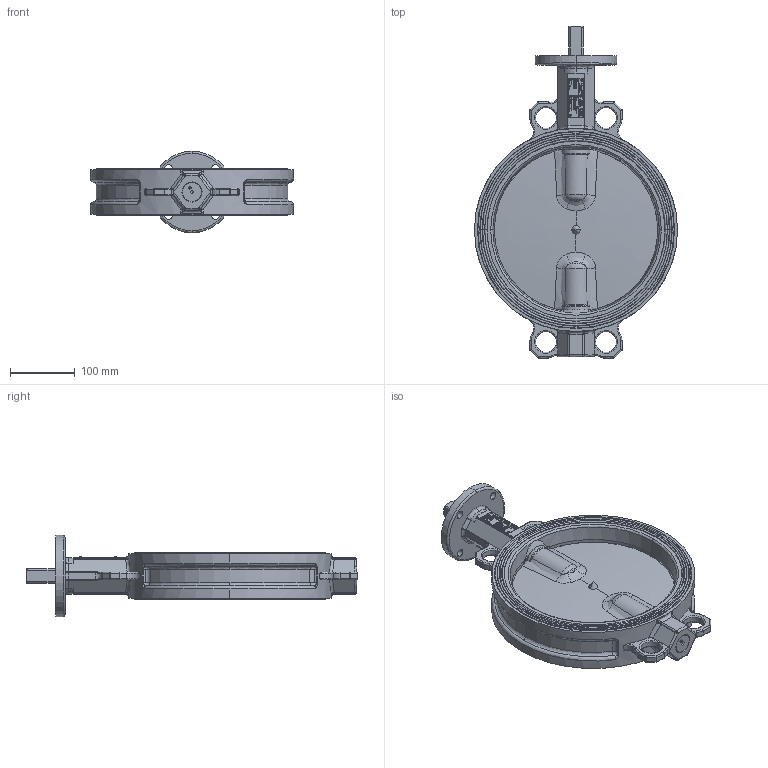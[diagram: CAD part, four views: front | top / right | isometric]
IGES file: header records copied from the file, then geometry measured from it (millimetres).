
Start section: SolidWorks IGES file using NURBS representation for surfaces
Global section: file name: H:\BE BIBLIOTHEQUE 3D\VPN\VPN-00 BARE SHAFT (DN40 à 300)\VPN-00 DN250\VPN-00 DN250.IGS; native system: SolidWorks 2011; preprocessor: SolidWorks 2011; author: a.cartier; date: 140602.114417; units: millimetre
Bounding box: 312.5 x 510.8 x 125 mm (x, y, z)
Volume: 3067382.2 mm3; surface area: 618863 mm2
Topology: 15 solids, 15 shells, 3280 faces, 8234 edges, 5331 vertices
Faces by surface type: bspline 3280
